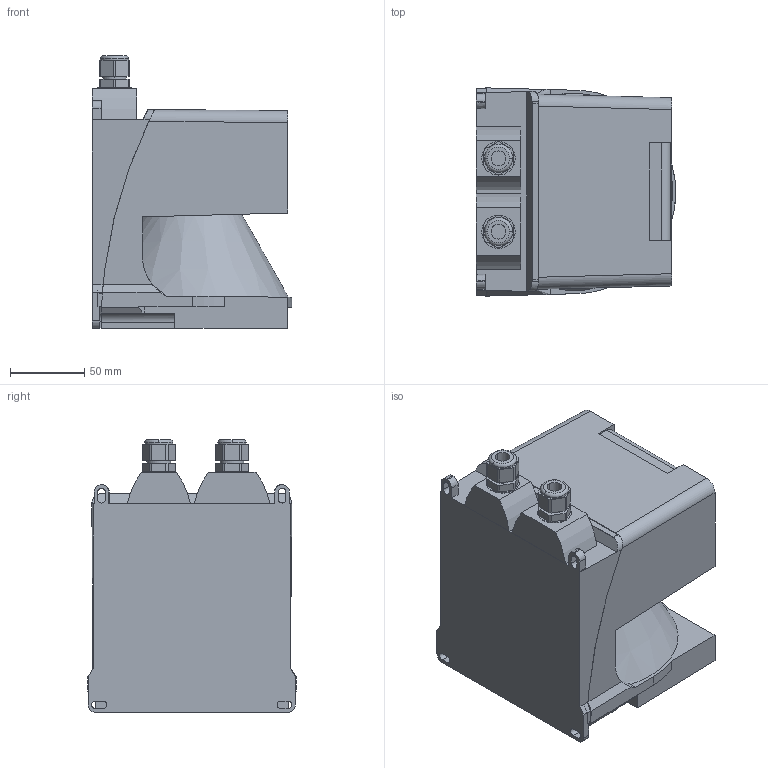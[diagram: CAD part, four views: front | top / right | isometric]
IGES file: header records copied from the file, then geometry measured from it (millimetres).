
Global section: file name: No Iges File Name specified; native system: Autodesk Inventor 2009; preprocessor: AutoDesk Inventor Iges Exporter R2009; author: atull; date: 20120209.132751; units: millimetre
Bounding box: 134.73 x 140.64 x 184.15 mm (x, y, z)
Volume: 1247750.3 mm3; surface area: 267911.6 mm2
Topology: 7 solids, 7 shells, 304 faces, 811 edges, 540 vertices
Faces by surface type: plane 217, cylinder 42, revolution 38, torus 4, cone 3
